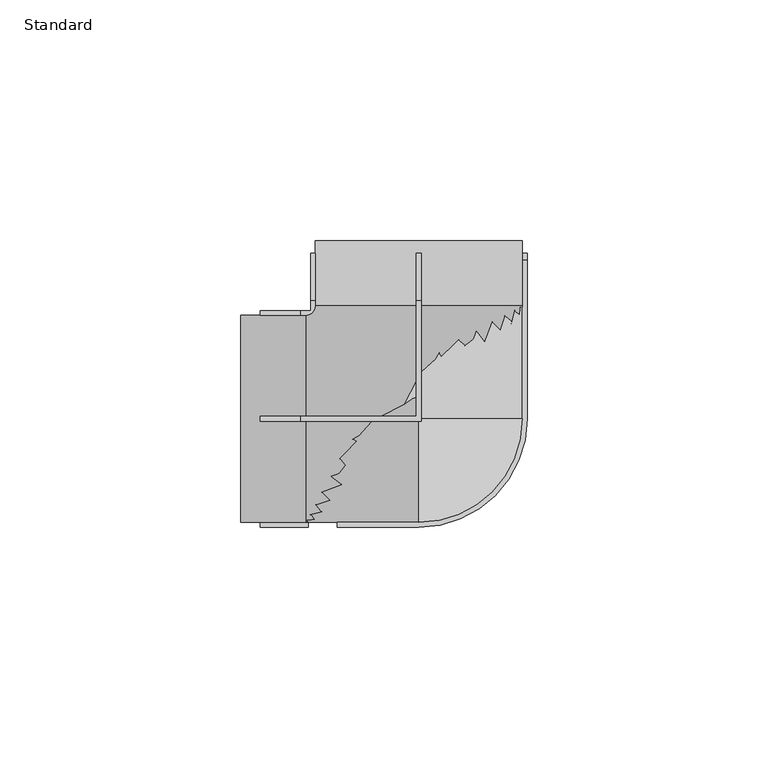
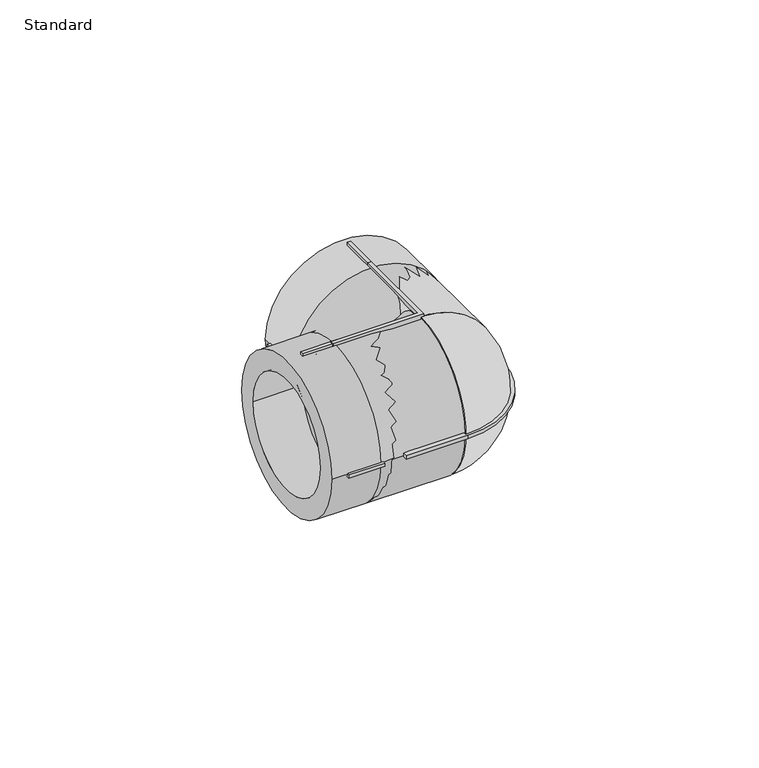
"""IFC4 building model written with IfcOpenShell, lengths in millimetres: pipe fitting geometry, EGB_VASEN_ PPR_Codo 90 WXR200_Codo 45 WXR220  : Standard."""

from ifc_helpers import new_model, si_unit, point, frame, origin, origin_2d, place, context, project, spatial, polyline, circle_curve, ellipse_curve, trimmed, segment, composite_curve, outline, extrude, source, transform, mapped, element, save
from ifc_brep_helpers import plane_surface, cylinder_surface, revolved_surface, advanced_brep


def standard_bdb5bef1(model_context):
    return source(origin(), model_context, "Body", "SolidModel", [
        advanced_brep(
        [(0.0, 0.0, -21.5), (0.0, 0.0, 21.5)],
        [
            (0, 1, circle_curve(frame((0.0, 0.0, 0.0), z_axis=(-1.0, 0.0, 0.0), x_axis=(0.0, 1.0, 0.0)), 21.5)),
            (1, 0),
            (1, 0, circle_curve(frame((0.0, 0.0, 0.0), z_axis=(0.0, 1.0, 0.0), x_axis=(-1.0, 0.0, 0.0)), 21.5)),
        ],
        [
            plane_surface(frame((0.0, 0.0, 31.5431585), z_axis=(-1.0, 0.0, 0.0), x_axis=(0.0, -1.0, 0.0))),
            plane_surface(frame((0.0, 0.0, 31.5431585), z_axis=(0.0, 1.0, 0.0), x_axis=(1.0, 0.0, 0.0))),
            revolved_surface(trimmed(ellipse_curve(frame((0.0, 0.0, 0.0), z_axis=(1.0, 0.0, 0.0), x_axis=(0.0, 1.0, 0.0)), 21.5, 21.5), [point((0.0, 0.0, 21.5))], [point((0.0, 0.0, -21.5))], True, "CARTESIAN"), (0.0, 0.0, 31.5431585), (0.0, 0.0, -1.0)),
        ],
        [
            (0, [[1, 2]]),
            (1, [[3, -2]]),
            (2, [[-1, -3]]),
        ],
    ),
        advanced_brep(
        [(-37.0, -21.5, 0.0), (-37.0, 21.5, 0.0), (-37.0, -16.0, 0.0), (-37.0, 16.0, 0.0), (-23.5, -21.5, 0.0), (-23.5, 21.5, 0.0), (-23.5, -16.0, 0.0), (-23.5, 16.0, 0.0), (16.0, 23.5, 0.0), (-16.0, 23.5, 0.0), (-21.5, 23.5, 0.0), (21.5, 23.5, 0.0), (21.5, 37.0, 0.0), (-21.5, 37.0, 0.0), (16.0, 37.0, 0.0), (-16.0, 37.0, 0.0)],
        [
            (0, 1, circle_curve(frame((-37.0, 0.0, 0.0), z_axis=(-1.0, 0.0, 0.0), x_axis=(0.0, 1.0, 0.0)), 21.5)),
            (1, 0, circle_curve(frame((-37.0, 0.0, 0.0), z_axis=(-1.0, 0.0, 0.0), x_axis=(0.0, 1.0, 0.0)), 21.5)),
            (2, 3, circle_curve(frame((-37.0, 0.0, 0.0), z_axis=(1.0, 0.0, 0.0), x_axis=(0.0, 1.0, 0.0)), 16.0)),
            (3, 2, circle_curve(frame((-37.0, 0.0, 0.0), z_axis=(1.0, 0.0, 0.0), x_axis=(0.0, 1.0, 0.0)), 16.0)),
            (0, 4),
            (4, 5, circle_curve(frame((-23.5, 0.0, 0.0), z_axis=(-1.0, 0.0, 0.0), x_axis=(0.0, 1.0, 0.0)), 21.5)),
            (5, 1),
            (5, 4, circle_curve(frame((-23.5, 0.0, 0.0), z_axis=(-1.0, 0.0, 0.0), x_axis=(0.0, 1.0, 0.0)), 21.5)),
            (2, 6),
            (6, 7, circle_curve(frame((-23.5, 0.0, 0.0), z_axis=(1.0, 0.0, 0.0), x_axis=(0.0, 1.0, 0.0)), 16.0)),
            (7, 3),
            (7, 6, circle_curve(frame((-23.5, 0.0, 0.0), z_axis=(1.0, 0.0, 0.0), x_axis=(0.0, 1.0, 0.0)), 16.0)),
            (8, 9, circle_curve(frame((0.0, 23.5, 0.0), z_axis=(0.0, 1.0, 0.0), x_axis=(-1.0, 0.0, 0.0)), 16.0)),
            (9, 8, circle_curve(frame((0.0, 23.5, 0.0), z_axis=(0.0, 1.0, 0.0), x_axis=(-1.0, 0.0, 0.0)), 16.0)),
            (10, 5, circle_curve(frame((-23.5, 23.5, 0.0), z_axis=(0.0, 0.0, -1.0), x_axis=(0.0, -1.0, 0.0)), 2.0)),
            (4, 11, circle_curve(frame((-23.5, 23.5, 0.0), z_axis=(0.0, 0.0, 1.0), x_axis=(0.0, -1.0, 0.0)), 45.0)),
            (11, 10, circle_curve(frame((0.0, 23.5, 0.0), z_axis=(0.0, -1.0, 0.0), x_axis=(-1.0, 0.0, 0.0)), 21.5)),
            (10, 11, circle_curve(frame((0.0, 23.5, 0.0), z_axis=(0.0, -1.0, 0.0), x_axis=(-1.0, 0.0, 0.0)), 21.5)),
            (12, 13, circle_curve(frame((0.0, 37.0, 0.0), z_axis=(0.0, 1.0, 0.0), x_axis=(-1.0, 0.0, 0.0)), 21.5)),
            (13, 12, circle_curve(frame((0.0, 37.0, 0.0), z_axis=(0.0, 1.0, 0.0), x_axis=(-1.0, 0.0, 0.0)), 21.5)),
            (14, 15, circle_curve(frame((0.0, 37.0, 0.0), z_axis=(0.0, -1.0, 0.0), x_axis=(-1.0, 0.0, 0.0)), 16.0)),
            (15, 14, circle_curve(frame((0.0, 37.0, 0.0), z_axis=(0.0, -1.0, 0.0), x_axis=(-1.0, 0.0, 0.0)), 16.0)),
            (13, 10),
            (11, 12),
            (15, 9),
            (8, 14),
        ],
        [
            plane_surface(frame((-37.0, 0.0, 0.0), z_axis=(-1.0, 0.0, 0.0), x_axis=(0.0, 0.0, 1.0))),
            cylinder_surface(frame((-37.0, 0.0, 0.0), z_axis=(-1.0, 0.0, 0.0), x_axis=(0.0, 1.0, 0.0)), 21.5),
            revolved_surface(polyline([(-23.5, 16.0, 0.0), (-37.0, 16.0, 0.0)]), (-37.0, 0.0, 0.0), (1.0, 0.0, 0.0)),
            plane_surface(frame((-23.5, 0.0, 0.0), z_axis=(-1.0, 0.0, 0.0), x_axis=(0.0, 0.0, 1.0))),
            plane_surface(frame((0.0, 23.5, 0.0), z_axis=(0.0, 1.0, 0.0), x_axis=(0.0, 0.0, 1.0))),
            revolved_surface(trimmed(ellipse_curve(frame((-23.5, 0.0, 0.0), z_axis=(-1.0, 0.0, 0.0), x_axis=(0.0, 1.0, 0.0)), 21.5, 21.5), [point((-23.5, -21.5, 0.0))], [point((-23.5, 21.5, 0.0))], True, "CARTESIAN"), (-23.5, 23.5, 0.0), (0.0, 0.0, 1.0)),
            revolved_surface(trimmed(ellipse_curve(frame((-23.5, 0.0, 0.0), z_axis=(-1.0, 0.0, 0.0), x_axis=(0.0, 1.0, 0.0)), 21.5, 21.5), [point((-23.5, 21.5, 0.0))], [point((-23.5, -21.5, 0.0))], True, "CARTESIAN"), (-23.5, 23.5, 0.0), (0.0, 0.0, 1.0)),
            plane_surface(frame((0.0, 37.0, 0.0), z_axis=(0.0, 1.0, 0.0), x_axis=(0.0, 0.0, 1.0))),
            cylinder_surface(frame((0.0, 23.5, 0.0), z_axis=(0.0, -1.0, 0.0), x_axis=(-1.0, 0.0, 0.0)), 21.5),
            revolved_surface(polyline([(-16.0, 37.0, 0.0), (-16.0, 23.5, 0.0)]), (0.0, 23.5, 0.0), (0.0, 1.0, 0.0)),
        ],
        [
            (0, [[1, 2], [3, 4]]),
            (1, [[-1, 5, 6, 7]]),
            (1, [[-2, -7, 8, -5]]),
            (2, [[-3, 9, 10, 11]]),
            (2, [[-4, -11, 12, -9]]),
            (3, [[-10, -12]]),
            (4, [[13, 14]]),
            (5, [[15, -6, 16, 17]]),
            (6, [[-15, 18, -16, -8]]),
            (7, [[19, 20], [21, 22]]),
            (8, [[-20, 23, -17, 24]]),
            (8, [[-19, -24, -18, -23]]),
            (9, [[-22, 25, -13, 26]]),
            (9, [[-21, -26, -14, -25]]),
        ],
    ),
        extrude(outline(composite_curve([segment(polyline([(-17.0, -22.5), (-17.0, -20.5), (0.0, -20.5)]), True, "CONTINUOUS"), segment(trimmed(circle_curve(origin_2d(), 20.5), [point((0.0, -20.5))], [point((20.5, 0.0))], True, "CARTESIAN"), True, "CONTINUOUS"), segment(polyline([(20.5, 0.0), (20.5, 33.0), (22.5, 33.0), (22.5, 0.0)]), True, "CONTINUOUS"), segment(trimmed(circle_curve(origin_2d(), 22.5), [point((22.5, 0.0))], [point((0.0, -22.5))], False, "CARTESIAN"), True, "CONTINUOUS"), segment(polyline([(0.0, -22.5), (-17.0, -22.5)]), True, "CONTINUOUS")], self_intersect=False)), frame((0.0, 0.0, -0.5), z_axis=(0.0, 0.0, 1.0), x_axis=(1.0, 0.0, 0.0)), (0.0, 0.0, 1.0), 1.0),
        extrude(outline(polyline([(-24.5, -0.5), (-24.5, 0.5), (-0.5, 0.5), (-0.5, 24.5), (0.5, 24.5), (0.5, -0.5), (-24.5, -0.5)])), frame((0.0, 0.0, 20.5), z_axis=(0.0, 0.0, 1.0), x_axis=(1.0, 0.0, 0.0)), (0.0, 0.0, 1.0), 2.0),
        extrude(outline(polyline([(-24.5, -0.5), (-24.5, 0.5), (-0.5, 0.5), (-0.5, 24.5), (0.5, 24.5), (0.5, -0.5), (-24.5, -0.5)])), frame((0.0, 0.0, -22.5), z_axis=(0.0, 0.0, 1.0), x_axis=(1.0, 0.0, 0.0)), (0.0, 0.0, 1.0), 2.0),
        extrude(outline(polyline([(-24.5, 20.5), (-24.5, 22.5), (-22.5, 22.5), (-22.5, 24.5), (-20.5, 24.5), (-20.5, 20.5), (-24.5, 20.5)])), frame((0.0, 0.0, -0.5), z_axis=(0.0, 0.0, 1.0), x_axis=(1.0, 0.0, 0.0)), (0.0, 0.0, 1.0), 1.0),
        extrude(outline(composite_curve([segment(trimmed(circle_curve(origin_2d(), 21.5), [point((-21.5, 0.0))], [point((21.5, 0.0))], False, "CARTESIAN"), True, "CONTINUOUS"), segment(trimmed(circle_curve(origin_2d(), 21.5), [point((21.5, 0.0))], [point((-21.5, 0.0))], False, "CARTESIAN"), True, "CONTINUOUS")], self_intersect=False)), frame((-23.5, 0.0, 0.0), z_axis=(1.0, 0.0, 0.0), x_axis=(0.0, 1.0, 0.0)), (0.0, 0.0, 1.0), 23.5),
        extrude(outline(composite_curve([segment(trimmed(circle_curve(origin_2d(), 21.5), [point((0.0, -21.5))], [point((0.0, 21.5))], False, "CARTESIAN"), True, "CONTINUOUS"), segment(trimmed(circle_curve(origin_2d(), 21.5), [point((0.0, 21.5))], [point((0.0, -21.5))], False, "CARTESIAN"), True, "CONTINUOUS")], self_intersect=False)), frame((0.0, 0.0, 0.0), z_axis=(0.0, 1.0, 0.0), x_axis=(0.0, 0.0, 1.0)), (0.0, 0.0, 1.0), 23.5),
        extrude(outline(polyline([(0.5, 24.5), (-0.5, 24.5), (-0.5, 34.4), (0.5, 34.4), (0.5, 24.5)])), frame((0.0, 0.0, 20.5), z_axis=(0.0, 0.0, 1.0), x_axis=(1.0, 0.0, 0.0)), (0.0, 0.0, 1.0), 2.0),
        extrude(outline(polyline([(-20.5, 24.5), (-22.5, 24.5), (-22.5, 34.4), (-20.5, 34.4), (-20.5, 24.5)])), frame((0.0, 0.0, -0.5), z_axis=(0.0, 0.0, 1.0), x_axis=(1.0, 0.0, 0.0)), (0.0, 0.0, 1.0), 1.0),
        extrude(outline(polyline([(22.5, 24.5), (20.5, 24.5), (20.5, 34.4), (22.5, 34.4), (22.5, 24.5)])), frame((0.0, 0.0, -0.5), z_axis=(0.0, 0.0, 1.0), x_axis=(1.0, 0.0, 0.0)), (0.0, 0.0, 1.0), 1.0),
        extrude(outline(polyline([(0.5, 24.5), (-0.5, 24.5), (-0.5, 34.4), (0.5, 34.4), (0.5, 24.5)])), frame((0.0, 0.0, -22.5), z_axis=(0.0, 0.0, 1.0), x_axis=(1.0, 0.0, 0.0)), (0.0, 0.0, 1.0), 2.0),
        extrude(outline(polyline([(-23.0, 0.5), (-23.0, -0.5), (-32.9, -0.5), (-32.9, 0.5), (-23.0, 0.5)])), frame((0.0, 0.0, 20.5), z_axis=(0.0, 0.0, 1.0), x_axis=(1.0, 0.0, 0.0)), (0.0, 0.0, 1.0), 2.0),
        extrude(outline(polyline([(-23.0, 0.5), (-23.0, -0.5), (-32.9, -0.5), (-32.9, 0.5), (-23.0, 0.5)])), frame((0.0, 0.0, -22.5), z_axis=(0.0, 0.0, 1.0), x_axis=(1.0, 0.0, 0.0)), (0.0, 0.0, 1.0), 2.0),
        extrude(outline(polyline([(-23.0, 22.5), (-23.0, 20.5), (-32.9, 20.5), (-32.9, 22.5), (-23.0, 22.5)])), frame((0.0, 0.0, -0.5), z_axis=(0.0, 0.0, 1.0), x_axis=(1.0, 0.0, 0.0)), (0.0, 0.0, 1.0), 1.0),
        extrude(outline(polyline([(-23.0, -20.5), (-23.0, -22.5), (-32.9, -22.5), (-32.9, -20.5), (-23.0, -20.5)])), frame((0.0, 0.0, -0.5), z_axis=(0.0, 0.0, 1.0), x_axis=(1.0, 0.0, 0.0)), (0.0, 0.0, 1.0), 1.0),
    ])


if __name__ == "__main__":
    model = new_model("IFC4")
    model_context = context("Model", 3, world=origin())
    ifc_project = project(units=[si_unit("LENGTHUNIT", "METRE", prefix="MILLI")], contexts=[model_context])
    site = spatial("IfcSite", under=ifc_project)
    building = spatial("IfcBuilding", under=site)
    placement = place(None, origin())
    standard_shape = standard_bdb5bef1(model_context)
    element("IfcPipeFitting", 1, ObjectType="EGB_VASEN_ PPR_Codo 90 WXR200_Codo 45 WXR220  : Standard", at=placement, inside=building, context=model_context, shape_type="MappedRepresentation", body=[
        mapped(standard_shape, transform((0.0, 0.0, 0.0), x_axis=(1.0, 0.0, 0.0), y_axis=(0.0, 1.0, 0.0), z_axis=(0.0, 0.0, 1.0))),
    ])
    save(model, "model.ifc")
